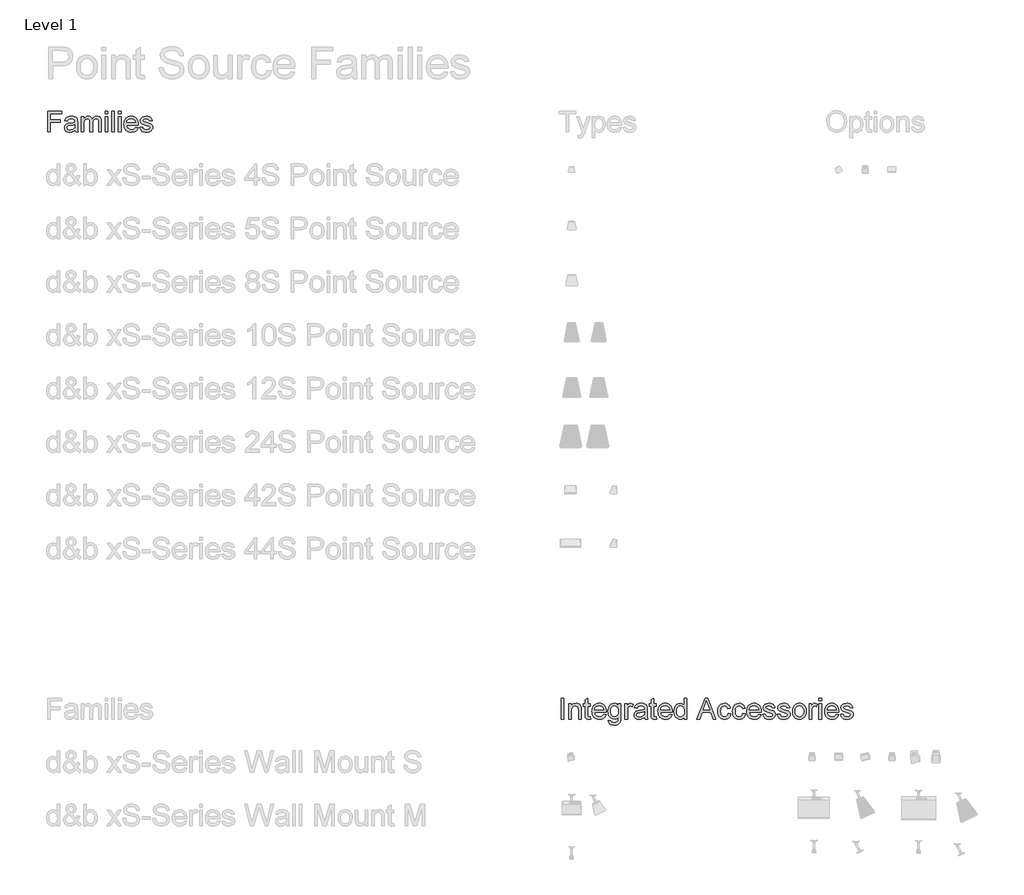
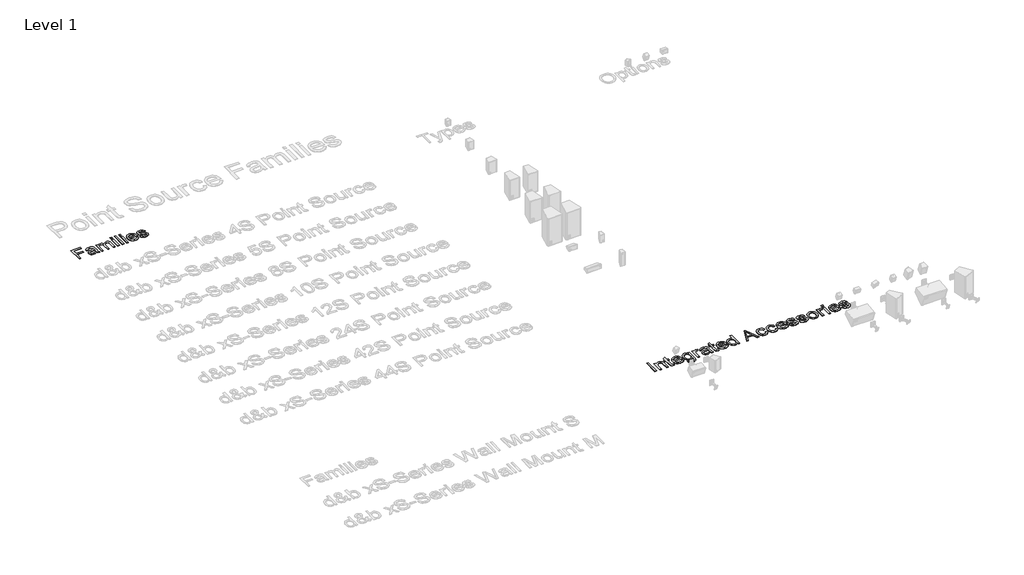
# One storey, part 50 of 55: 2 proxies.
"""IFC4 building model written with IfcOpenShell, lengths in millimetres."""

from ifc_helpers import new_model, si_unit, origin, origin_with_axes, place, context, project, spatial, polyline, outline, extrude, element, save

model = new_model("IFC4")

# Units and contexts
model_context = context("Model", 3, world=origin())
ifc_project = project(units=[si_unit("LENGTHUNIT", "METRE", prefix="MILLI")], contexts=[model_context])

# Site, building, storey
site = spatial("IfcSite", under=ifc_project)
building = spatial("IfcBuilding", under=site)
storey = spatial("IfcBuildingStorey", under=building, Name="Level 1", Elevation=0.0)

# Proxies
placement = place(None, origin())
element("IfcBuildingElementProxy", 1, Name="400mm Arial", ObjectType="400mm Arial", at=placement, inside=storey, context=model_context, shape_type="SweptSolid", body=[
    extrude(outline(polyline([(-21056.720891, 17351.3054836), (-21056.720891, 17743.0630593), (-20793.5087698, 17743.0630593), (-20793.5087698, 17694.0933624), (-21007.7511941, 17694.0933624), (-21007.7511941, 17577.7903321), (-20824.1148304, 17577.7903321), (-20824.1148304, 17528.8206351), (-21007.7511941, 17528.8206351), (-21007.7511941, 17351.3054836), (-21056.720891, 17351.3054836)])), origin_with_axes(), (0.0, 0.0, 1.0), 5.0),
    extrude(outline(polyline([(-20548.660285, 17388.0327563), (-20572.0571836, 17367.97144), (-20596.1475009, 17354.8443093), (-20621.4811893, 17347.5992809), (-20648.6082016, 17345.1842715), (-20670.4120309, 17346.6368638), (-20689.5318522, 17350.9946408), (-20705.9676654, 17358.2576024), (-20719.7194706, 17368.4257487), (-20730.5780466, 17380.8534831), (-20738.3341723, 17394.895209), (-20742.9878477, 17410.5509263), (-20744.5390729, 17427.8206351), (-20742.1957963, 17448.1210612), (-20735.1659668, 17466.5564305), (-20724.3223352, 17482.3376805), (-20710.5376524, 17494.6757487), (-20676.2493001, 17510.7439305), (-20633.879035, 17518.1085139), (-20583.8094327, 17525.855673), (-20548.9472168, 17534.9418472), (-20548.660285, 17545.8452563), (-20552.0317338, 17567.6998965), (-20562.1460804, 17581.9986654), (-20584.7658721, 17592.6151427), (-20616.2805501, 17596.1539684), (-20645.4519516, 17593.7987364), (-20665.8241107, 17586.7330404), (-20679.7163929, 17573.6656872), (-20689.4481638, 17553.3054836), (-20738.4178607, 17559.4266957), (-20729.9175056, 17586.2069987), (-20717.2327282, 17607.2486654), (-20699.1799346, 17623.3407582), (-20674.5755312, 17635.2723396), (-20644.4835568, 17642.660834), (-20609.9680501, 17645.1236654), (-20576.8632916, 17642.9477658), (-20550.6209857, 17636.4200669), (-20530.8346458, 17626.6046076), (-20517.097785, 17614.5654268), (-20507.9876997, 17599.6808387), (-20502.0816865, 17581.3291578), (-20499.690588, 17538.480673), (-20499.690588, 17477.5554836), (-20497.2038456, 17392.4801995), (-20487.4481638, 17351.3054836), (-20536.4178607, 17351.3054836), (-20544.2606638, 17368.3301048), (-20548.660285, 17388.0327563)]), holes=[polyline([(-20548.660285, 17485.9721502), (-20581.5618001, 17477.8185044), (-20627.6621789, 17470.9560518), (-20669.7933342, 17463.0176048), (-20680.7565208, 17457.5898112), (-20688.8743001, 17450.105673), (-20693.8956069, 17441.1390536), (-20695.5693759, 17431.2638169), (-20691.9229507, 17416.7020271), (-20680.9836751, 17404.7704457), (-20662.990659, 17396.8080877), (-20638.1830122, 17394.1539684), (-20611.8809289, 17397.0830641), (-20588.6394516, 17405.870351), (-20569.7975956, 17418.8181493), (-20556.6943759, 17434.228779), (-20550.8840066, 17450.105673), (-20548.9472168, 17472.103779), (-20548.660285, 17485.9721502)])]), origin_with_axes(), (0.0, 0.0, 1.0), 5.0),
    extrude(outline(polyline([(-20432.3572547, 17351.3054836), (-20432.3572547, 17639.0024533), (-20383.3875577, 17639.0024533), (-20383.3875577, 17591.6587033), (-20368.658391, 17613.405744), (-20349.720891, 17630.4423207), (-20327.2206543, 17641.4533292), (-20301.8032774, 17645.1236654), (-20274.5686657, 17641.3815963), (-20252.7379365, 17630.1553889), (-20236.4306448, 17612.1862838), (-20225.7663456, 17588.2155215), (-20207.9167954, 17613.1128344), (-20187.5565918, 17630.8966294), (-20164.6857348, 17641.5669064), (-20139.3042244, 17645.1236654), (-20119.7002057, 17643.6441732), (-20102.4932632, 17639.2056966), (-20087.683397, 17631.8082357), (-20075.2706069, 17621.4517904), (-20065.4581365, 17608.0168058), (-20058.4492291, 17591.3837269), (-20054.2438846, 17571.5525539), (-20052.8421032, 17548.5232866), (-20052.8421032, 17351.3054836), (-20101.8118001, 17351.3054836), (-20101.8118001, 17527.4816199), (-20106.3548872, 17568.369404), (-20112.7391202, 17579.6434334), (-20122.8056448, 17588.5024533), (-20135.7534431, 17594.2410896), (-20150.7814971, 17596.1539684), (-20177.3107348, 17591.2522165), (-20198.9382206, 17576.5469608), (-20207.3279874, 17565.2669537), (-20213.320678, 17551.03394), (-20218.1148304, 17513.7088927), (-20218.1148304, 17351.3054836), (-20267.0845274, 17351.3054836), (-20267.0845274, 17532.9333245), (-20269.9179791, 17560.6222449), (-20278.4183342, 17580.3727184), (-20293.3746552, 17592.2086559), (-20315.5760047, 17596.1539684), (-20334.4417717, 17593.5237601), (-20351.8250577, 17585.6331351), (-20366.1716486, 17572.6733813), (-20375.9273304, 17554.8357866), (-20381.5225009, 17530.0879173), (-20383.3875577, 17496.3973396), (-20383.3875577, 17351.3054836), (-20432.3572547, 17351.3054836)])), origin_with_axes(), (0.0, 0.0, 1.0), 5.0),
    extrude(outline(polyline([(-19979.3875577, 17351.3054836), (-19979.3875577, 17639.0024533), (-19930.4178607, 17639.0024533), (-19930.4178607, 17351.3054836), (-19979.3875577, 17351.3054836)])), origin_with_axes(), (0.0, 0.0, 1.0), 5.0),
    extrude(outline(polyline([(-19979.3875577, 17694.0933624), (-19979.3875577, 17743.0630593), (-19930.4178607, 17743.0630593), (-19930.4178607, 17694.0933624), (-19979.3875577, 17694.0933624)])), origin_with_axes(), (0.0, 0.0, 1.0), 5.0),
    extrude(outline(polyline([(-19856.9633153, 17351.3054836), (-19856.9633153, 17743.0630593), (-19807.9936183, 17743.0630593), (-19807.9936183, 17351.3054836), (-19856.9633153, 17351.3054836)])), origin_with_axes(), (0.0, 0.0, 1.0), 5.0),
    extrude(outline(polyline([(-19734.5390729, 17351.3054836), (-19734.5390729, 17639.0024533), (-19685.5693759, 17639.0024533), (-19685.5693759, 17351.3054836), (-19734.5390729, 17351.3054836)])), origin_with_axes(), (0.0, 0.0, 1.0), 5.0),
    extrude(outline(polyline([(-19734.5390729, 17694.0933624), (-19734.5390729, 17743.0630593), (-19685.5693759, 17743.0630593), (-19685.5693759, 17694.0933624), (-19734.5390729, 17694.0933624)])), origin_with_axes(), (0.0, 0.0, 1.0), 5.0),
    extrude(outline(polyline([(-19410.6886941, 17437.0024533), (-19362.6754365, 17430.8812411), (-19370.0370309, 17411.6508316), (-19379.975034, 17394.7039211), (-19392.4894457, 17380.0405096), (-19407.580266, 17367.6605972), (-19425.0920736, 17357.8272047), (-19444.8694469, 17350.8033529), (-19491.220891, 17345.1842715), (-19521.605775, 17347.6082475), (-19548.6789876, 17354.8801758), (-19572.4405288, 17367.0000563), (-19592.8903986, 17383.9678889), (-19609.3351784, 17405.3114317), (-19621.0814497, 17430.5584429), (-19628.1292125, 17459.7089223), (-19630.4784668, 17492.7628699), (-19628.1053015, 17526.937645), (-19620.9858058, 17557.0595082), (-19609.1199796, 17583.1284594), (-19592.5078229, 17605.1444987), (-19572.1117528, 17622.6353841), (-19548.8941865, 17635.1288737), (-19522.855124, 17642.6249675), (-19493.9945653, 17645.1236654), (-19466.0635461, 17642.6309452), (-19440.8045795, 17635.1527847), (-19418.2176654, 17622.6891839), (-19398.3028039, 17605.2401427), (-19382.0463231, 17583.2719253), (-19370.4345511, 17557.2507961), (-19363.4674879, 17527.1767549), (-19361.1451335, 17493.0498018), (-19361.4320653, 17479.8509381), (-19581.5087698, 17479.8509381), (-19578.6723292, 17460.3096858), (-19573.0323257, 17443.1953983), (-19564.5887592, 17428.5080759), (-19553.3416297, 17416.2477184), (-19524.9234242, 17399.6774059), (-19490.2644516, 17394.1539684), (-19464.2014782, 17396.7124438), (-19442.2511941, 17404.3878699), (-19424.4135994, 17417.6584665), (-19410.6886941, 17437.0024533)]), holes=[polyline([(-19581.5087698, 17528.8206351), (-19410.1148304, 17528.8206351), (-19416.7381732, 17554.6923207), (-19429.721838, 17573.199423), (-19443.076123, 17583.2420366), (-19458.2715539, 17590.4153321), (-19494.1858532, 17596.1539684), (-19527.1949677, 17591.5750148), (-19554.4893569, 17577.838154), (-19573.4627234, 17556.4258671), (-19581.5087698, 17528.8206351)])]), origin_with_axes(), (0.0, 0.0, 1.0), 5.0),
    extrude(outline(polyline([(-19330.5390729, 17437.0024533), (-19281.5693759, 17443.1236654), (-19273.8461278, 17422.1776427), (-19258.9017622, 17406.7789684), (-19236.6406354, 17397.3102184), (-19206.9671032, 17394.1539684), (-19177.6522357, 17397.0471976), (-19157.0409668, 17405.7268851), (-19144.8463645, 17418.3040631), (-19140.7814971, 17432.8897639), (-19144.8702755, 17445.371298), (-19157.1366107, 17454.8878699), (-19207.5409668, 17468.8518851), (-19281.2824441, 17492.8106919), (-19299.9449677, 17504.8498728), (-19313.4666297, 17520.7865442), (-19321.680053, 17539.6044893), (-19324.4178607, 17560.2874911), (-19322.2180501, 17579.2608576), (-19315.6186183, 17596.775654), (-19305.2173399, 17612.1384618), (-19291.6119895, 17624.6558624), (-19260.4798872, 17639.1459192), (-19218.3487319, 17645.1236654), (-19186.4753891, 17642.7206114), (-19158.7625577, 17635.5114495), (-19136.4775198, 17624.2015536), (-19120.8875577, 17609.496298), (-19110.5580122, 17590.3077326), (-19104.0542244, 17565.5479078), (-19153.0239213, 17559.4266957), (-19159.2049109, 17574.8373254), (-19171.4353797, 17586.4461086), (-19189.8348825, 17593.7270035), (-19214.5229744, 17596.1539684), (-19242.6422925, 17593.8346029), (-19261.3885047, 17586.8765063), (-19271.933249, 17576.8338927), (-19275.4481638, 17565.260976), (-19269.6138835, 17551.010029), (-19251.345891, 17540.2022639), (-19209.1669138, 17529.7770745), (-19137.2904933, 17506.7268851), (-19118.3051713, 17495.7039211), (-19103.9107585, 17480.6160896), (-19094.8365397, 17461.4155688), (-19091.8118001, 17438.0545366), (-19095.3625814, 17413.9044419), (-19106.0149251, 17391.1890063), (-19123.3623446, 17371.6895982), (-19146.9983532, 17357.1875858), (-19175.5480691, 17348.1851), (-19207.6366107, 17345.1842715), (-19233.9924938, 17346.630886), (-19257.0127944, 17350.9707298), (-19276.6975127, 17358.2038027), (-19293.0466486, 17368.3301048), (-19306.4009336, 17381.3018141), (-19317.1010994, 17397.0711086), (-19325.1471458, 17415.6379883), (-19330.5390729, 17437.0024533)])), origin_with_axes(), (0.0, 0.0, 1.0), 5.0),
])
element("IfcBuildingElementProxy", 2, Name="400mm Arial", ObjectType="400mm Arial", at=placement, inside=storey, context=model_context, shape_type="SweptSolid", body=[
    extrude(outline(polyline([(-11437.7764845, 6351.3054836), (-11437.7764845, 6743.0630593), (-11388.8067875, 6743.0630593), (-11388.8067875, 6351.3054836), (-11437.7764845, 6351.3054836)])), origin_with_axes(), (0.0, 0.0, 1.0), 5.0),
    extrude(outline(polyline([(-11296.9886057, 6351.3054836), (-11296.9886057, 6639.0024533), (-11248.0189088, 6639.0024533), (-11248.0189088, 6598.8319987), (-11231.006243, 6619.0846029), (-11210.5743065, 6633.5507487), (-11186.7230991, 6642.2304362), (-11159.4526209, 6645.1236654), (-11135.3144817, 6642.7923444), (-11113.2087762, 6635.7983813), (-11094.7734069, 6625.0145271), (-11081.6462762, 6611.3135328), (-11072.7394343, 6594.7312648), (-11066.9649315, 6575.3035896), (-11064.3825451, 6527.9598396), (-11064.3825451, 6351.3054836), (-11113.3522421, 6351.3054836), (-11113.3522421, 6521.3604078), (-11114.7629902, 6546.6821408), (-11118.9952345, 6564.6871124), (-11126.8021711, 6577.5870887), (-11138.9369959, 6587.5938358), (-11154.4910915, 6594.0139353), (-11172.5558406, 6596.1539684), (-11201.2370669, 6591.3478605), (-11225.6860489, 6576.9295366), (-11235.4566751, 6565.1593543), (-11242.4356938, 6549.0732393), (-11246.623105, 6528.6711914), (-11248.0189088, 6503.9532108), (-11248.0189088, 6351.3054836), (-11296.9886057, 6351.3054836)])), origin_with_axes(), (0.0, 0.0, 1.0), 5.0),
    extrude(outline(polyline([(-10892.9886057, 6392.1454457), (-10886.8673936, 6349.8708245), (-10923.4990224, 6345.1842715), (-10947.0035205, 6347.2167052), (-10964.5302724, 6353.3140063), (-10976.9161625, 6362.7110233), (-10984.9980754, 6374.6426048), (-10989.4455186, 6395.1343188), (-10990.9279997, 6430.2117336), (-10990.9279997, 6590.0327563), (-11027.6552724, 6590.0327563), (-11027.6552724, 6639.0024533), (-10990.9279997, 6639.0024533), (-10990.9279997, 6708.918173), (-10941.9583027, 6737.7069987), (-10941.9583027, 6639.0024533), (-10892.9886057, 6639.0024533), (-10892.9886057, 6590.0327563), (-10941.9583027, 6590.0327563), (-10941.9583027, 6431.6463927), (-10939.3759163, 6406.3963927), (-10931.0070716, 6397.4536843), (-10914.3172042, 6394.1539684), (-10892.9886057, 6392.1454457)])), origin_with_axes(), (0.0, 0.0, 1.0), 5.0),
    extrude(outline(polyline([(-10642.5927724, 6437.0024533), (-10594.5795148, 6430.8812411), (-10601.9411093, 6411.6508316), (-10611.8791124, 6394.7039211), (-10624.3935241, 6380.0405096), (-10639.4843444, 6367.6605972), (-10656.9961519, 6357.8272047), (-10676.7735252, 6350.8033529), (-10723.1249694, 6345.1842715), (-10753.5098534, 6347.6082475), (-10780.583066, 6354.8801758), (-10804.3446072, 6367.0000563), (-10824.7944769, 6383.9678889), (-10841.2392568, 6405.3114317), (-10852.9855281, 6430.5584429), (-10860.0332909, 6459.7089223), (-10862.3825451, 6492.7628699), (-10860.0093799, 6526.937645), (-10852.8898841, 6557.0595082), (-10841.0240579, 6583.1284594), (-10824.4119012, 6605.1444987), (-10804.0158311, 6622.6353841), (-10780.7982648, 6635.1288737), (-10754.7592023, 6642.6249675), (-10725.8986436, 6645.1236654), (-10697.9676244, 6642.6309452), (-10672.7086578, 6635.1527847), (-10650.1217438, 6622.6891839), (-10630.2068822, 6605.2401427), (-10613.9504014, 6583.2719253), (-10602.3386294, 6557.2507961), (-10595.3715662, 6527.1767549), (-10593.0492118, 6493.0498018), (-10593.3361436, 6479.8509381), (-10813.4128482, 6479.8509381), (-10810.5764076, 6460.3096858), (-10804.936404, 6443.1953983), (-10796.4928375, 6428.5080759), (-10785.245708, 6416.2477184), (-10756.8275025, 6399.6774059), (-10722.16853, 6394.1539684), (-10696.1055565, 6396.7124438), (-10674.1552724, 6404.3878699), (-10656.3176777, 6417.6584665), (-10642.5927724, 6437.0024533)]), holes=[polyline([(-10813.4128482, 6528.8206351), (-10642.0189088, 6528.8206351), (-10648.6422516, 6554.6923207), (-10661.6259163, 6573.199423), (-10674.9802014, 6583.2420366), (-10690.1756322, 6590.4153321), (-10726.0899315, 6596.1539684), (-10759.0990461, 6591.5750148), (-10786.3934353, 6577.838154), (-10805.3668018, 6556.4258671), (-10813.4128482, 6528.8206351)])]), origin_with_axes(), (0.0, 0.0, 1.0), 5.0),
    extrude(outline(polyline([(-10556.3219391, 6326.8206351), (-10507.3522421, 6320.699423), (-10501.9483595, 6305.3963927), (-10491.4753482, 6294.8755593), (-10470.8879902, 6286.6980025), (-10443.9403103, 6283.9721502), (-10415.1993065, 6287.0566673), (-10393.822886, 6296.3102184), (-10378.9980754, 6311.135029), (-10369.9119012, 6330.9333245), (-10366.5643633, 6388.0327563), (-10382.8596995, 6371.9645745), (-10401.0440035, 6360.4873018), (-10421.1172752, 6353.6009381), (-10443.0795148, 6351.3054836), (-10469.9285619, 6353.9775361), (-10493.5675593, 6361.9936938), (-10513.996507, 6375.3539566), (-10531.215405, 6394.0583245), (-10544.8775439, 6416.4987838), (-10554.6362146, 6441.0673207), (-10560.491417, 6467.7639353), (-10562.4431512, 6496.5886275), (-10558.9401919, 6536.125441), (-10548.4313141, 6572.4820934), (-10531.2871379, 6603.2913974), (-10507.8782838, 6626.1861654), (-10479.0057696, 6640.3892904), (-10445.4706133, 6645.1236654), (-10422.5698676, 6642.4456351), (-10401.785244, 6634.4115442), (-10383.1167426, 6621.0213927), (-10366.5643633, 6602.2751805), (-10366.5643633, 6639.0024533), (-10317.5946663, 6639.0024533), (-10317.5946663, 6390.6151427), (-10320.9422042, 6333.2646455), (-10330.9848179, 6295.4972449), (-10348.2844154, 6270.4504883), (-10373.402905, 6251.261923), (-10405.7903339, 6239.0673207), (-10444.8967497, 6235.0024533), (-10490.4591313, 6240.7291341), (-10509.6088413, 6247.8874852), (-10526.3375641, 6257.9091768), (-10539.8502594, 6270.8061642), (-10549.351887, 6286.5904031), (-10554.8424469, 6305.2618934), (-10556.3219391, 6326.8206351)]), holes=[polyline([(-10513.4734542, 6499.9361654), (-10508.248904, 6455.0193804), (-10501.7182163, 6437.8243934), (-10492.5752535, 6424.1383434), (-10481.4596344, 6413.6982097), (-10469.0109779, 6406.2409713), (-10455.229284, 6401.7666282), (-10440.1145527, 6400.2751805), (-10411.4333264, 6406.2051048), (-10387.7494959, 6423.9948775), (-10378.4810004, 6437.5464282), (-10371.8606464, 6454.4813832), (-10366.5643633, 6498.5015063), (-10372.0160679, 6540.9554599), (-10378.8306985, 6557.7260269), (-10388.3711815, 6571.525654), (-10412.4017213, 6589.9968898), (-10426.0847823, 6594.6146988), (-10440.8797042, 6596.1539684), (-10455.4265496, 6594.6386098), (-10468.843601, 6590.0925338), (-10492.2883216, 6571.9082298), (-10501.5568171, 6558.3178238), (-10508.1771711, 6541.7923444), (-10513.4734542, 6499.9361654)])]), origin_with_axes(), (0.0, 0.0, 1.0), 5.0),
    extrude(outline(polyline([(-10244.1401209, 6351.3054836), (-10244.1401209, 6639.0024533), (-10201.291636, 6639.0024533), (-10201.291636, 6596.4409002), (-10185.4625641, 6621.1170366), (-10170.8768633, 6635.6549154), (-10156.2433406, 6642.7564779), (-10140.2708027, 6645.1236654), (-10115.8815982, 6641.3457298), (-10091.1098179, 6630.011923), (-10107.4649315, 6586.1113548), (-10124.6808406, 6593.643315), (-10141.8967497, 6596.1539684), (-10156.5183169, 6593.738959), (-10169.5856701, 6586.4939305), (-10180.1423699, 6574.9688358), (-10187.2319769, 6559.7136275), (-10193.1858122, 6532.3594608), (-10195.1704239, 6502.5185518), (-10195.1704239, 6351.3054836), (-10244.1401209, 6351.3054836)])), origin_with_axes(), (0.0, 0.0, 1.0), 5.0),
    extrude(outline(polyline([(-9876.8673936, 6388.0327563), (-9900.2642923, 6367.97144), (-9924.3546095, 6354.8443093), (-9949.688298, 6347.5992809), (-9976.8153103, 6345.1842715), (-9998.6191396, 6346.6368638), (-10017.7389608, 6350.9946408), (-10034.1747741, 6358.2576024), (-10047.9265792, 6368.4257487), (-10058.7851552, 6380.8534831), (-10066.5412809, 6394.895209), (-10071.1949563, 6410.5509263), (-10072.7461815, 6427.8206351), (-10070.402905, 6448.1210612), (-10063.3730754, 6466.5564305), (-10052.5294438, 6482.3376805), (-10038.744761, 6494.6757487), (-10004.4564088, 6510.7439305), (-9962.0861436, 6518.1085139), (-9912.0165413, 6525.855673), (-9877.1543254, 6534.9418472), (-9876.8673936, 6545.8452563), (-9880.2388425, 6567.6998965), (-9890.3531891, 6581.9986654), (-9912.9729807, 6592.6151427), (-9944.4876588, 6596.1539684), (-9973.6590603, 6593.7987364), (-9994.0312194, 6586.7330404), (-10007.9235016, 6573.6656872), (-10017.6552724, 6553.3054836), (-10066.6249694, 6559.4266957), (-10058.1246143, 6586.2069987), (-10045.4398368, 6607.2486654), (-10027.3870432, 6623.3407582), (-10002.7826398, 6635.2723396), (-9972.6906654, 6642.660834), (-9938.1751588, 6645.1236654), (-9905.0704002, 6642.9477658), (-9878.8280944, 6636.4200669), (-9859.0417544, 6626.6046076), (-9845.3048936, 6614.5654268), (-9836.1948084, 6599.6808387), (-9830.2887951, 6581.3291578), (-9827.8976966, 6538.480673), (-9827.8976966, 6477.5554836), (-9825.4109542, 6392.4801995), (-9815.6552724, 6351.3054836), (-9864.6249694, 6351.3054836), (-9872.4677724, 6368.3301048), (-9876.8673936, 6388.0327563)]), holes=[polyline([(-9876.8673936, 6485.9721502), (-9909.7689088, 6477.8185044), (-9955.8692875, 6470.9560518), (-9998.0004429, 6463.0176048), (-10008.9636294, 6457.5898112), (-10017.0814088, 6450.105673), (-10022.1027156, 6441.1390536), (-10023.7764845, 6431.2638169), (-10020.1300593, 6416.7020271), (-10009.1907838, 6404.7704457), (-9991.1977677, 6396.8080877), (-9966.3901209, 6394.1539684), (-9940.0880375, 6397.0830641), (-9916.8465603, 6405.870351), (-9898.0047042, 6418.8181493), (-9884.9014845, 6434.228779), (-9879.0911152, 6450.105673), (-9877.1543254, 6472.103779), (-9876.8673936, 6485.9721502)])]), origin_with_axes(), (0.0, 0.0, 1.0), 5.0),
    extrude(outline(polyline([(-9656.5037572, 6392.1454457), (-9650.3825451, 6349.8708245), (-9687.0141739, 6345.1842715), (-9710.518672, 6347.2167052), (-9728.0454239, 6353.3140063), (-9740.4313141, 6362.7110233), (-9748.5132269, 6374.6426048), (-9752.9606701, 6395.1343188), (-9754.4431512, 6430.2117336), (-9754.4431512, 6590.0327563), (-9791.1704239, 6590.0327563), (-9791.1704239, 6639.0024533), (-9754.4431512, 6639.0024533), (-9754.4431512, 6708.918173), (-9705.4734542, 6737.7069987), (-9705.4734542, 6639.0024533), (-9656.5037572, 6639.0024533), (-9656.5037572, 6590.0327563), (-9705.4734542, 6590.0327563), (-9705.4734542, 6431.6463927), (-9702.8910679, 6406.3963927), (-9694.5222232, 6397.4536843), (-9677.8323557, 6394.1539684), (-9656.5037572, 6392.1454457)])), origin_with_axes(), (0.0, 0.0, 1.0), 5.0),
    extrude(outline(polyline([(-9406.1079239, 6437.0024533), (-9358.0946663, 6430.8812411), (-9365.4562608, 6411.6508316), (-9375.3942639, 6394.7039211), (-9387.9086756, 6380.0405096), (-9402.9994959, 6367.6605972), (-9420.5113034, 6357.8272047), (-9440.2886768, 6350.8033529), (-9486.6401209, 6345.1842715), (-9517.0250049, 6347.6082475), (-9544.0982175, 6354.8801758), (-9567.8597587, 6367.0000563), (-9588.3096285, 6383.9678889), (-9604.7544083, 6405.3114317), (-9616.5006796, 6430.5584429), (-9623.5484424, 6459.7089223), (-9625.8976966, 6492.7628699), (-9623.5245314, 6526.937645), (-9616.4050357, 6557.0595082), (-9604.5392094, 6583.1284594), (-9587.9270527, 6605.1444987), (-9567.5309826, 6622.6353841), (-9544.3134163, 6635.1288737), (-9518.2743538, 6642.6249675), (-9489.4137951, 6645.1236654), (-9461.4827759, 6642.6309452), (-9436.2238093, 6635.1527847), (-9413.6368953, 6622.6891839), (-9393.7220338, 6605.2401427), (-9377.4655529, 6583.2719253), (-9365.8537809, 6557.2507961), (-9358.8867177, 6527.1767549), (-9356.5643633, 6493.0498018), (-9356.8512951, 6479.8509381), (-9576.9279997, 6479.8509381), (-9574.0915591, 6460.3096858), (-9568.4515555, 6443.1953983), (-9560.007989, 6428.5080759), (-9548.7608595, 6416.2477184), (-9520.342654, 6399.6774059), (-9485.6836815, 6394.1539684), (-9459.620708, 6396.7124438), (-9437.6704239, 6404.3878699), (-9419.8328292, 6417.6584665), (-9406.1079239, 6437.0024533)]), holes=[polyline([(-9576.9279997, 6528.8206351), (-9405.5340603, 6528.8206351), (-9412.1574031, 6554.6923207), (-9425.1410679, 6573.199423), (-9438.4953529, 6583.2420366), (-9453.6907838, 6590.4153321), (-9489.605083, 6596.1539684), (-9522.6141976, 6591.5750148), (-9549.9085868, 6577.838154), (-9568.8819533, 6556.4258671), (-9576.9279997, 6528.8206351)])]), origin_with_axes(), (0.0, 0.0, 1.0), 5.0),
    extrude(outline(polyline([(-9130.0795148, 6351.3054836), (-9130.0795148, 6397.5015063), (-9144.7309708, 6374.6127161), (-9162.4788993, 6358.2635802), (-9183.3233003, 6348.4540986), (-9207.2641739, 6345.1842715), (-9238.9223179, 6349.9186465), (-9267.9024315, 6364.1217715), (-9292.4351019, 6386.8013406), (-9310.7509163, 6416.965048), (-9322.1564561, 6453.3934334), (-9325.9583027, 6494.8670366), (-9322.4553434, 6535.8265536), (-9311.9464656, 6572.8168472), (-9294.4436247, 6603.7337506), (-9269.9587762, 6626.4730972), (-9240.3450214, 6640.4610233), (-9207.4554618, 6645.1236654), (-9183.496655, 6641.788083), (-9162.3115224, 6631.7813358), (-9144.3543728, 6616.4424391), (-9130.0795148, 6597.1104078), (-9130.0795148, 6743.0630593), (-9081.1098179, 6743.0630593), (-9081.1098179, 6351.3054836), (-9130.0795148, 6351.3054836)]), holes=[polyline([(-9276.9886057, 6495.0583245), (-9271.4651682, 6450.763225), (-9264.5608714, 6433.4128167), (-9254.8948557, 6419.2605025), (-9230.816494, 6400.4306019), (-9217.2888543, 6395.7231268), (-9202.7689088, 6394.1539684), (-9174.733279, 6400.1436701), (-9151.2646474, 6418.1127752), (-9141.9961519, 6431.6732925), (-9135.375798, 6448.3960375), (-9130.0795148, 6491.3282108), (-9135.4714419, 6538.2654741), (-9142.2113508, 6556.3362009), (-9151.6472232, 6570.8083245), (-9163.0557518, 6581.8970437), (-9175.7136294, 6589.8175574), (-9189.620856, 6594.5698657), (-9204.7774315, 6596.1539684), (-9219.5843089, 6594.632632), (-9233.1119485, 6590.0686228), (-9245.3603505, 6582.4619407), (-9256.3295148, 6571.8125858), (-9265.3678671, 6557.887426), (-9271.823833, 6540.4533292), (-9276.9886057, 6495.0583245)])]), origin_with_axes(), (0.0, 0.0, 1.0), 5.0),
    extrude(outline(polyline([(-8894.0302724, 6351.3054836), (-8737.6524315, 6743.0630593), (-8695.9516739, 6743.0630593), (-8539.6694769, 6351.3054836), (-8591.4128482, 6351.3054836), (-8636.1742118, 6473.729726), (-8797.6211815, 6473.729726), (-8842.3825451, 6351.3054836), (-8894.0302724, 6351.3054836)]), holes=[polyline([(-8779.6401209, 6522.699423), (-8654.0596285, 6522.699423), (-8689.447886, 6619.0128699), (-8716.8976966, 6694.0933624), (-8741.2869012, 6627.4295366), (-8779.6401209, 6522.699423)])]), origin_with_axes(), (0.0, 0.0, 1.0), 5.0),
    extrude(outline(polyline([(-8309.8370906, 6455.3660896), (-8260.8673936, 6449.2448775), (-8266.1935655, 6426.1378995), (-8274.520566, 6405.6910186), (-8285.848395, 6387.9042348), (-8300.1770527, 6372.777548), (-8316.9027866, 6360.7054895), (-8335.4218444, 6352.0825906), (-8355.734226, 6346.9088512), (-8377.8399315, 6345.1842715), (-8405.3046865, 6347.5903143), (-8429.930012, 6354.8084429), (-8451.715908, 6366.8386571), (-8470.6623747, 6383.6809571), (-8485.9982826, 6405.0185222), (-8496.9525025, 6430.5345319), (-8503.5250345, 6460.2289862), (-8505.7158785, 6494.1018851), (-8501.9738093, 6537.679655), (-8490.7476019, 6575.4470555), (-8471.8579239, 6605.9455167), (-8445.1254429, 6627.7164684), (-8413.1445006, 6640.7718661), (-8378.5094391, 6645.1236654), (-8356.7833205, 6643.6292288), (-8337.1314798, 6639.1459192), (-8319.553917, 6631.6737364), (-8304.0506322, 6621.2126805), (-8290.8846462, 6608.0018614), (-8280.3189798, 6592.2803889), (-8272.353633, 6574.0482629), (-8266.9886057, 6553.3054836), (-8315.9583027, 6547.1842715), (-8324.8412336, 6568.5487364), (-8338.6737383, 6583.8637222), (-8356.6906654, 6593.0814069), (-8378.1268633, 6596.1539684), (-8394.7659199, 6594.6415986), (-8409.7730518, 6590.1044893), (-8423.1482589, 6582.5426403), (-8434.8915413, 6571.9560518), (-8444.4529464, 6558.099636), (-8451.2825214, 6540.7283055), (-8456.7461815, 6495.4409002), (-8451.4020764, 6449.5437648), (-8444.721945, 6432.0558683), (-8435.369761, 6418.2084192), (-8423.8596107, 6407.684597), (-8410.7055802, 6400.1675811), (-8395.9076694, 6395.6573716), (-8379.4658785, 6394.1539684), (-8354.108279, 6397.907993), (-8333.3176777, 6409.1700669), (-8318.1939798, 6428.2271218), (-8309.8370906, 6455.3660896)])), origin_with_axes(), (0.0, 0.0, 1.0), 5.0),
    extrude(outline(polyline([(-8034.3825451, 6455.3660896), (-7985.4128482, 6449.2448775), (-7990.73902, 6426.1378995), (-7999.0660205, 6405.6910186), (-8010.3938496, 6387.9042348), (-8024.7225072, 6372.777548), (-8041.4482411, 6360.7054895), (-8059.9672989, 6352.0825906), (-8080.2796805, 6346.9088512), (-8102.385386, 6345.1842715), (-8129.850141, 6347.5903143), (-8154.4754665, 6354.8084429), (-8176.2613626, 6366.8386571), (-8195.2078292, 6383.6809571), (-8210.5437371, 6405.0185222), (-8221.4979571, 6430.5345319), (-8228.070489, 6460.2289862), (-8230.261333, 6494.1018851), (-8226.5192639, 6537.679655), (-8215.2930565, 6575.4470555), (-8196.4033785, 6605.9455167), (-8169.6708974, 6627.7164684), (-8137.6899552, 6640.7718661), (-8103.0548936, 6645.1236654), (-8081.328775, 6643.6292288), (-8061.6769343, 6639.1459192), (-8044.0993716, 6631.6737364), (-8028.5960868, 6621.2126805), (-8015.4301008, 6608.0018614), (-8004.8644343, 6592.2803889), (-7996.8990875, 6574.0482629), (-7991.5340603, 6553.3054836), (-8040.5037572, 6547.1842715), (-8049.3866881, 6568.5487364), (-8063.2191929, 6583.8637222), (-8081.2361199, 6593.0814069), (-8102.6723179, 6596.1539684), (-8119.3113744, 6594.6415986), (-8134.3185063, 6590.1044893), (-8147.6937134, 6582.5426403), (-8159.4369959, 6571.9560518), (-8168.9984009, 6558.099636), (-8175.827976, 6540.7283055), (-8181.291636, 6495.4409002), (-8175.9475309, 6449.5437648), (-8169.2673995, 6432.0558683), (-8159.9152156, 6418.2084192), (-8148.4050652, 6407.684597), (-8135.2510347, 6400.1675811), (-8120.453124, 6395.6573716), (-8104.011333, 6394.1539684), (-8078.6537336, 6397.907993), (-8057.8631322, 6409.1700669), (-8042.7394343, 6428.2271218), (-8034.3825451, 6455.3660896)])), origin_with_axes(), (0.0, 0.0, 1.0), 5.0),
    extrude(outline(polyline([(-7741.1382269, 6437.0024533), (-7693.1249694, 6430.8812411), (-7700.4865638, 6411.6508316), (-7710.4245669, 6394.7039211), (-7722.9389786, 6380.0405096), (-7738.0297989, 6367.6605972), (-7755.5416064, 6357.8272047), (-7775.3189798, 6350.8033529), (-7821.6704239, 6345.1842715), (-7852.0553079, 6347.6082475), (-7879.1285205, 6354.8801758), (-7902.8900617, 6367.0000563), (-7923.3399315, 6383.9678889), (-7939.7847113, 6405.3114317), (-7951.5309826, 6430.5584429), (-7958.5787454, 6459.7089223), (-7960.9279997, 6492.7628699), (-7958.5548344, 6526.937645), (-7951.4353387, 6557.0595082), (-7939.5695125, 6583.1284594), (-7922.9573557, 6605.1444987), (-7902.5612857, 6622.6353841), (-7879.3437194, 6635.1288737), (-7853.3046569, 6642.6249675), (-7824.4440982, 6645.1236654), (-7796.513079, 6642.6309452), (-7771.2541124, 6635.1527847), (-7748.6671983, 6622.6891839), (-7728.7523368, 6605.2401427), (-7712.495856, 6583.2719253), (-7700.8840839, 6557.2507961), (-7693.9170207, 6527.1767549), (-7691.5946663, 6493.0498018), (-7691.8815982, 6479.8509381), (-7911.9583027, 6479.8509381), (-7909.1218621, 6460.3096858), (-7903.4818586, 6443.1953983), (-7895.038292, 6428.5080759), (-7883.7911625, 6416.2477184), (-7855.3729571, 6399.6774059), (-7820.7139845, 6394.1539684), (-7794.651011, 6396.7124438), (-7772.7007269, 6404.3878699), (-7754.8631322, 6417.6584665), (-7741.1382269, 6437.0024533)]), holes=[polyline([(-7911.9583027, 6528.8206351), (-7740.5643633, 6528.8206351), (-7747.1877061, 6554.6923207), (-7760.1713709, 6573.199423), (-7773.5256559, 6583.2420366), (-7788.7210868, 6590.4153321), (-7824.635386, 6596.1539684), (-7857.6445006, 6591.5750148), (-7884.9388898, 6577.838154), (-7903.9122563, 6556.4258671), (-7911.9583027, 6528.8206351)])]), origin_with_axes(), (0.0, 0.0, 1.0), 5.0),
    extrude(outline(polyline([(-7660.9886057, 6437.0024533), (-7612.0189088, 6443.1236654), (-7604.2956607, 6422.1776427), (-7589.3512951, 6406.7789684), (-7567.0901682, 6397.3102184), (-7537.416636, 6394.1539684), (-7508.1017686, 6397.0471976), (-7487.4904997, 6405.7268851), (-7475.2958974, 6418.3040631), (-7471.23103, 6432.8897639), (-7475.3198084, 6445.371298), (-7487.5861436, 6454.8878699), (-7537.9904997, 6468.8518851), (-7611.7319769, 6492.8106919), (-7630.3945006, 6504.8498728), (-7643.9161625, 6520.7865442), (-7652.1295858, 6539.6044893), (-7654.8673936, 6560.2874911), (-7652.667583, 6579.2608576), (-7646.0681512, 6596.775654), (-7635.6668728, 6612.1384618), (-7622.0615224, 6624.6558624), (-7590.9294201, 6639.1459192), (-7548.7982648, 6645.1236654), (-7516.924922, 6642.7206114), (-7489.2120906, 6635.5114495), (-7466.9270527, 6624.2015536), (-7451.3370906, 6609.496298), (-7441.0075451, 6590.3077326), (-7434.5037572, 6565.5479078), (-7483.4734542, 6559.4266957), (-7489.6544438, 6574.8373254), (-7501.8849125, 6586.4461086), (-7520.2844154, 6593.7270035), (-7544.9725072, 6596.1539684), (-7573.0918254, 6593.8346029), (-7591.8380375, 6586.8765063), (-7602.3827819, 6576.8338927), (-7605.8976966, 6565.260976), (-7600.0634163, 6551.010029), (-7581.7954239, 6540.2022639), (-7539.6164466, 6529.7770745), (-7467.7400262, 6506.7268851), (-7448.7547042, 6495.7039211), (-7434.3602913, 6480.6160896), (-7425.2860726, 6461.4155688), (-7422.261333, 6438.0545366), (-7425.8121143, 6413.9044419), (-7436.464458, 6391.1890063), (-7453.8118775, 6371.6895982), (-7477.447886, 6357.1875858), (-7505.9976019, 6348.1851), (-7538.0861436, 6345.1842715), (-7564.4420267, 6346.630886), (-7587.4623273, 6350.9707298), (-7607.1470456, 6358.2038027), (-7623.4961815, 6368.3301048), (-7636.8504665, 6381.3018141), (-7647.5506322, 6397.0711086), (-7655.5966786, 6415.6379883), (-7660.9886057, 6437.0024533)])), origin_with_axes(), (0.0, 0.0, 1.0), 5.0),
    extrude(outline(polyline([(-7385.5340603, 6437.0024533), (-7336.5643633, 6443.1236654), (-7328.8411152, 6422.1776427), (-7313.8967497, 6406.7789684), (-7291.6356228, 6397.3102184), (-7261.9620906, 6394.1539684), (-7232.6472232, 6397.0471976), (-7212.0359542, 6405.7268851), (-7199.8413519, 6418.3040631), (-7195.7764845, 6432.8897639), (-7199.8652629, 6445.371298), (-7212.1315982, 6454.8878699), (-7262.5359542, 6468.8518851), (-7336.2774315, 6492.8106919), (-7354.9399552, 6504.8498728), (-7368.4616171, 6520.7865442), (-7376.6750404, 6539.6044893), (-7379.4128482, 6560.2874911), (-7377.2130375, 6579.2608576), (-7370.6136057, 6596.775654), (-7360.2123273, 6612.1384618), (-7346.6069769, 6624.6558624), (-7315.4748747, 6639.1459192), (-7273.3437194, 6645.1236654), (-7241.4703766, 6642.7206114), (-7213.7575451, 6635.5114495), (-7191.4725072, 6624.2015536), (-7175.8825451, 6609.496298), (-7165.5529997, 6590.3077326), (-7159.0492118, 6565.5479078), (-7208.0189088, 6559.4266957), (-7214.1998983, 6574.8373254), (-7226.4303671, 6586.4461086), (-7244.8298699, 6593.7270035), (-7269.5179618, 6596.1539684), (-7297.63728, 6593.8346029), (-7316.3834921, 6586.8765063), (-7326.9282364, 6576.8338927), (-7330.4431512, 6565.260976), (-7324.6088709, 6551.010029), (-7306.3408785, 6540.2022639), (-7264.1619012, 6529.7770745), (-7192.2854807, 6506.7268851), (-7173.3001588, 6495.7039211), (-7158.9057459, 6480.6160896), (-7149.8315271, 6461.4155688), (-7146.8067875, 6438.0545366), (-7150.3575688, 6413.9044419), (-7161.0099125, 6391.1890063), (-7178.3573321, 6371.6895982), (-7201.9933406, 6357.1875858), (-7230.5430565, 6348.1851), (-7262.6315982, 6345.1842715), (-7288.9874812, 6346.630886), (-7312.0077819, 6350.9707298), (-7331.6925001, 6358.2038027), (-7348.041636, 6368.3301048), (-7361.3959211, 6381.3018141), (-7372.0960868, 6397.0711086), (-7380.1421332, 6415.6379883), (-7385.5340603, 6437.0024533)])), origin_with_axes(), (0.0, 0.0, 1.0), 5.0),
    extrude(outline(polyline([(-7103.9583027, 6495.1539684), (-7101.3101611, 6532.4132606), (-7093.3657364, 6564.5197355), (-7080.1250286, 6591.4733931), (-7061.5880375, 6613.2742336), (-7042.9255139, 6627.20836), (-7022.3262004, 6637.1613074), (-6999.7900972, 6643.1330759), (-6975.3172042, 6645.1236654), (-6948.3007802, 6642.6996893), (-6923.8727203, 6635.427761), (-6902.0330245, 6623.3078806), (-6882.7816929, 6606.340048), (-6867.0691869, 6585.0981268), (-6855.8459684, 6560.1559807), (-6849.1120373, 6531.5136098), (-6846.8673936, 6499.1710139), (-6850.8366171, 6449.6991862), (-6862.7442875, 6412.0393851), (-6882.2436957, 6383.8363785), (-6908.9881322, 6362.7349343), (-6940.7538756, 6349.5719372), (-6975.3172042, 6345.1842715), (-7002.7281595, 6347.5992809), (-7027.3833737, 6354.8443093), (-7049.282847, 6366.9193567), (-7068.4265792, 6383.824423), (-7083.9717082, 6405.2725764), (-7095.0753718, 6430.9768851), (-7101.73757, 6460.9373491), (-7103.9583027, 6495.1539684)]), holes=[polyline([(-7054.9886057, 6495.2496124), (-7053.5718799, 6471.4970378), (-7049.3217023, 6450.9306019), (-7042.2380731, 6433.5503048), (-7032.3209921, 6419.3561465), (-7020.2579002, 6408.3301936), (-7006.7362383, 6400.4545129), (-6991.7560063, 6395.7291045), (-6975.3172042, 6394.1539684), (-6958.9620906, 6395.7380712), (-6944.041636, 6400.4903794), (-6930.5558406, 6408.4108931), (-6918.5047042, 6419.4996124), (-6908.5876232, 6433.8342478), (-6901.503994, 6451.4925101), (-6897.2538164, 6472.4743993), (-6895.8370906, 6496.7799154), (-6897.262783, 6519.7792939), (-6901.5398605, 6539.8077326), (-6908.6683228, 6556.8652314), (-6918.6481701, 6570.9517904), (-6930.7441396, 6581.9777433), (-6944.2209684, 6589.8534239), (-6959.0786566, 6594.5788323), (-6975.3172042, 6596.1539684), (-6991.7560063, 6594.58481), (-7006.7362383, 6589.8773349), (-7020.2579002, 6582.031543), (-7032.3209921, 6571.0474343), (-7042.2380731, 6556.8951202), (-7049.3217023, 6539.5447118), (-7053.5718799, 6518.9962092), (-7054.9886057, 6495.2496124)])]), origin_with_axes(), (0.0, 0.0, 1.0), 5.0),
    extrude(outline(polyline([(-6791.7764845, 6351.3054836), (-6791.7764845, 6639.0024533), (-6748.9279997, 6639.0024533), (-6748.9279997, 6596.4409002), (-6733.0989277, 6621.1170366), (-6718.5132269, 6635.6549154), (-6703.8797042, 6642.7564779), (-6687.9071663, 6645.1236654), (-6663.5179618, 6641.3457298), (-6638.7461815, 6630.011923), (-6655.1012951, 6586.1113548), (-6672.3172042, 6593.643315), (-6689.5331133, 6596.1539684), (-6704.1546805, 6593.738959), (-6717.2220338, 6586.4939305), (-6727.7787336, 6574.9688358), (-6734.8683406, 6559.7136275), (-6740.8221758, 6532.3594608), (-6742.8067875, 6502.5185518), (-6742.8067875, 6351.3054836), (-6791.7764845, 6351.3054836)])), origin_with_axes(), (0.0, 0.0, 1.0), 5.0),
    extrude(outline(polyline([(-6608.1401209, 6694.0933624), (-6608.1401209, 6743.0630593), (-6559.1704239, 6743.0630593), (-6559.1704239, 6694.0933624), (-6608.1401209, 6694.0933624)])), origin_with_axes(), (0.0, 0.0, 1.0), 5.0),
    extrude(outline(polyline([(-6608.1401209, 6351.3054836), (-6608.1401209, 6639.0024533), (-6559.1704239, 6639.0024533), (-6559.1704239, 6351.3054836), (-6608.1401209, 6351.3054836)])), origin_with_axes(), (0.0, 0.0, 1.0), 5.0),
    extrude(outline(polyline([(-6284.2897421, 6437.0024533), (-6236.2764845, 6430.8812411), (-6243.638079, 6411.6508316), (-6253.5760821, 6394.7039211), (-6266.0904938, 6380.0405096), (-6281.1813141, 6367.6605972), (-6298.6931216, 6357.8272047), (-6318.4704949, 6350.8033529), (-6364.8219391, 6345.1842715), (-6395.2068231, 6347.6082475), (-6422.2800357, 6354.8801758), (-6446.0415768, 6367.0000563), (-6466.4914466, 6383.9678889), (-6482.9362265, 6405.3114317), (-6494.6824978, 6430.5584429), (-6501.7302606, 6459.7089223), (-6504.0795148, 6492.7628699), (-6501.7063496, 6526.937645), (-6494.5868538, 6557.0595082), (-6482.7210276, 6583.1284594), (-6466.1088709, 6605.1444987), (-6445.7128008, 6622.6353841), (-6422.4952345, 6635.1288737), (-6396.456172, 6642.6249675), (-6367.5956133, 6645.1236654), (-6339.6645941, 6642.6309452), (-6314.4056275, 6635.1527847), (-6291.8187134, 6622.6891839), (-6271.9038519, 6605.2401427), (-6255.6473711, 6583.2719253), (-6244.0355991, 6557.2507961), (-6237.0685359, 6527.1767549), (-6234.7461815, 6493.0498018), (-6235.0331133, 6479.8509381), (-6455.1098179, 6479.8509381), (-6452.2733773, 6460.3096858), (-6446.6333737, 6443.1953983), (-6438.1898072, 6428.5080759), (-6426.9426777, 6416.2477184), (-6398.5244722, 6399.6774059), (-6363.8654997, 6394.1539684), (-6337.8025262, 6396.7124438), (-6315.8522421, 6404.3878699), (-6298.0146474, 6417.6584665), (-6284.2897421, 6437.0024533)]), holes=[polyline([(-6455.1098179, 6528.8206351), (-6283.7158785, 6528.8206351), (-6290.3392213, 6554.6923207), (-6303.322886, 6573.199423), (-6316.6771711, 6583.2420366), (-6331.8726019, 6590.4153321), (-6367.7869012, 6596.1539684), (-6400.7960158, 6591.5750148), (-6428.090405, 6577.838154), (-6447.0637714, 6556.4258671), (-6455.1098179, 6528.8206351)])]), origin_with_axes(), (0.0, 0.0, 1.0), 5.0),
    extrude(outline(polyline([(-6204.1401209, 6437.0024533), (-6155.1704239, 6443.1236654), (-6147.4471758, 6422.1776427), (-6132.5028103, 6406.7789684), (-6110.2416834, 6397.3102184), (-6080.5681512, 6394.1539684), (-6051.2532838, 6397.0471976), (-6030.6420148, 6405.7268851), (-6018.4474125, 6418.3040631), (-6014.3825451, 6432.8897639), (-6018.4713235, 6445.371298), (-6030.7376588, 6454.8878699), (-6081.1420148, 6468.8518851), (-6154.8834921, 6492.8106919), (-6173.5460158, 6504.8498728), (-6187.0676777, 6520.7865442), (-6195.281101, 6539.6044893), (-6198.0189088, 6560.2874911), (-6195.8190982, 6579.2608576), (-6189.2196663, 6596.775654), (-6178.8183879, 6612.1384618), (-6165.2130375, 6624.6558624), (-6134.0809353, 6639.1459192), (-6091.94978, 6645.1236654), (-6060.0764372, 6642.7206114), (-6032.3636057, 6635.5114495), (-6010.0785679, 6624.2015536), (-5994.4886057, 6609.496298), (-5984.1590603, 6590.3077326), (-5977.6552724, 6565.5479078), (-6026.6249694, 6559.4266957), (-6032.8059589, 6574.8373254), (-6045.0364277, 6586.4461086), (-6063.4359305, 6593.7270035), (-6088.1240224, 6596.1539684), (-6116.2433406, 6593.8346029), (-6134.9895527, 6586.8765063), (-6145.534297, 6576.8338927), (-6149.0492118, 6565.260976), (-6143.2149315, 6551.010029), (-6124.9469391, 6540.2022639), (-6082.7679618, 6529.7770745), (-6010.8915413, 6506.7268851), (-5991.9062194, 6495.7039211), (-5977.5118065, 6480.6160896), (-5968.4375877, 6461.4155688), (-5965.4128482, 6438.0545366), (-5968.9636294, 6413.9044419), (-5979.6159732, 6391.1890063), (-5996.9633927, 6371.6895982), (-6020.5994012, 6357.1875858), (-6049.1491171, 6348.1851), (-6081.2376588, 6345.1842715), (-6107.5935418, 6346.630886), (-6130.6138425, 6350.9707298), (-6150.2985607, 6358.2038027), (-6166.6476966, 6368.3301048), (-6180.0019817, 6381.3018141), (-6190.7021474, 6397.0711086), (-6198.7481938, 6415.6379883), (-6204.1401209, 6437.0024533)])), origin_with_axes(), (0.0, 0.0, 1.0), 5.0),
])

save(model, "model.ifc")
